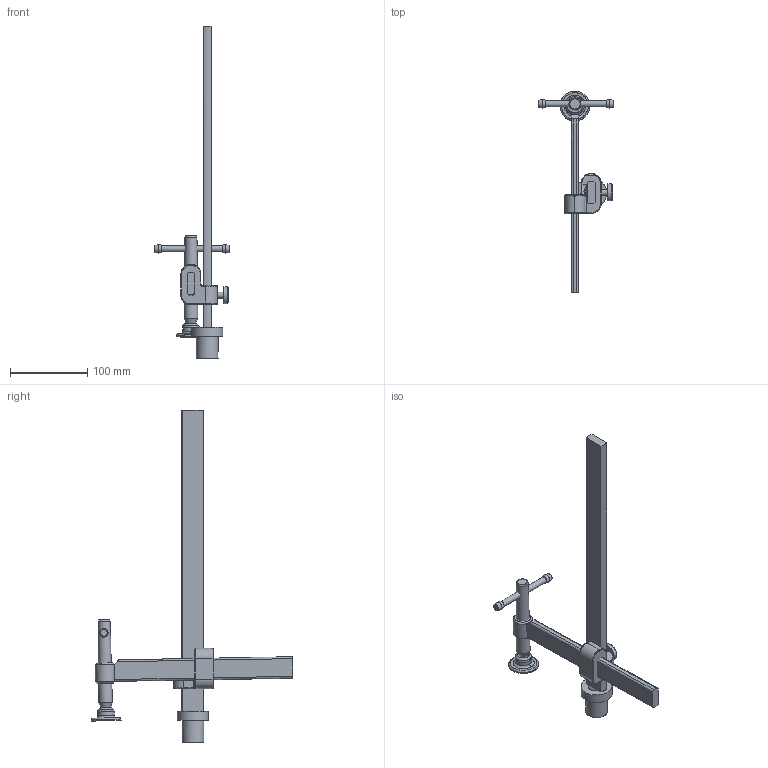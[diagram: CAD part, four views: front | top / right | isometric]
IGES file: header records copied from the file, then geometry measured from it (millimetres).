
Start section: ZWSOFT
Global section: file name: TWV28-30-17K.igs; native system: ZW3D; preprocessor: 1.0; author: ZW3D; organization: ZWSOFT; date: 140404.141502; units: millimetre
Bounding box: 97.95 x 260.41 x 429 mm (x, y, z)
Surface area: 81930.5 mm2 (no closed solid volume)
Topology: 0 solids, 0 shells, 124 faces, 560 edges, 510 vertices
Faces by surface type: bspline 124
